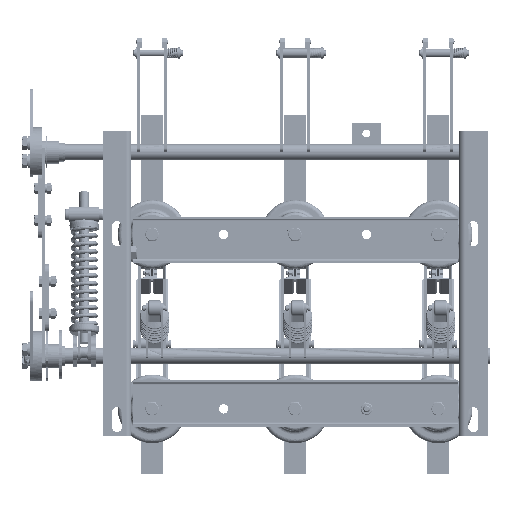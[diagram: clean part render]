
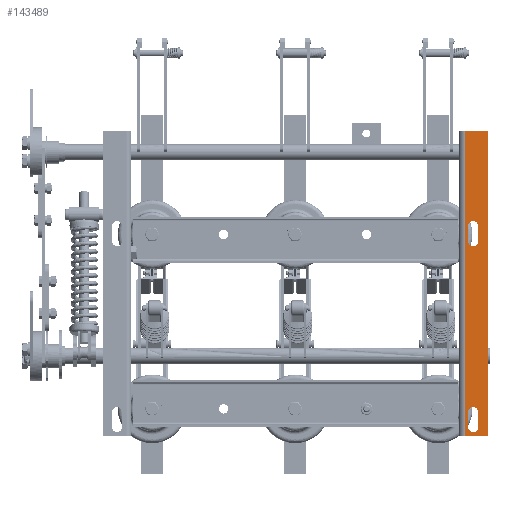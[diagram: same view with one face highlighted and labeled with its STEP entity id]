
A CAD part, front view. The second image highlights one B-rep face of the part: STEP entity #143489.
In plain terms, the highlighted planar face has unit normal (0, -1, 0).
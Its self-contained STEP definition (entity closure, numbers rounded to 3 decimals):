
#3783 = DIRECTION ( 'NONE',  ( 0., 0., 1. ) ) ;
#7098 = VECTOR ( 'NONE', #26087, 1000. ) ;
#8507 = ORIENTED_EDGE ( 'NONE', *, *, #96371, .F. ) ;
#9619 = EDGE_CURVE ( 'NONE', #147997, #77409, #24601, .T. ) ;
#11738 = VERTEX_POINT ( 'NONE', #27709 ) ;
#12618 = DIRECTION ( 'NONE',  ( 0., 0., -1. ) ) ;
#15363 = DIRECTION ( 'NONE',  ( 0., -1., 0. ) ) ;
#22906 = VECTOR ( 'NONE', #133639, 1000. ) ;
#24601 = LINE ( 'NONE', #120800, #99809 ) ;
#26087 = DIRECTION ( 'NONE',  ( 0., 0., 1. ) ) ;
#27327 = VERTEX_POINT ( 'NONE', #127918 ) ;
#27664 = VECTOR ( 'NONE', #3783, 1000. ) ;
#27709 = CARTESIAN_POINT ( 'NONE',  ( 241.999, 0.004, 140.5 ) ) ;
#28141 = VECTOR ( 'NONE', #120461, 1000. ) ;
#31517 = ORIENTED_EDGE ( 'NONE', *, *, #86489, .F. ) ;
#31820 = DIRECTION ( 'NONE',  ( 0., -1., 0. ) ) ;
#33035 = LINE ( 'NONE', #131118, #7098 ) ;
#33483 = CIRCLE ( 'NONE', #87177, 7. ) ;
#33746 = DIRECTION ( 'NONE',  ( -1., 0., 0. ) ) ;
#34702 = CIRCLE ( 'NONE', #185220, 7. ) ;
#34906 = ORIENTED_EDGE ( 'NONE', *, *, #189449, .F. ) ;
#35185 = VERTEX_POINT ( 'NONE', #36086 ) ;
#36086 = CARTESIAN_POINT ( 'NONE',  ( 241.999, 0.004, -119.5 ) ) ;
#36899 = VERTEX_POINT ( 'NONE', #146846 ) ;
#38087 = CARTESIAN_POINT ( 'NONE',  ( 241.999, 0.004, -20. ) ) ;
#38375 = VECTOR ( 'NONE', #12618, 1000. ) ;
#38706 = VECTOR ( 'NONE', #33746, 1000. ) ;
#39221 = VERTEX_POINT ( 'NONE', #116878 ) ;
#42046 = VERTEX_POINT ( 'NONE', #80227 ) ;
#43688 = CARTESIAN_POINT ( 'NONE',  ( 236.999, 0.004, 274. ) ) ;
#47787 = EDGE_CURVE ( 'NONE', #39221, #72723, #118626, .T. ) ;
#51059 = CARTESIAN_POINT ( 'NONE',  ( 255.999, 0.004, 140.5 ) ) ;
#51547 = DIRECTION ( 'NONE',  ( 0., -1., 0. ) ) ;
#59296 = VERTEX_POINT ( 'NONE', #139859 ) ;
#63665 = CARTESIAN_POINT ( 'NONE',  ( 269.202, 0.004, -225. ) ) ;
#67629 = ORIENTED_EDGE ( 'NONE', *, *, #78246, .T. ) ;
#67638 = LINE ( 'NONE', #63665, #27664 ) ;
#70731 = CARTESIAN_POINT ( 'NONE',  ( 255.999, 0.004, -140.5 ) ) ;
#72284 = CARTESIAN_POINT ( 'NONE',  ( 217.702, 0.004, -20. ) ) ;
#72723 = VERTEX_POINT ( 'NONE', #85199 ) ;
#72746 = EDGE_CURVE ( 'NONE', #72723, #36899, #33035, .T. ) ;
#74723 = CARTESIAN_POINT ( 'NONE',  ( 248.999, 0.004, -119.5 ) ) ;
#77409 = VERTEX_POINT ( 'NONE', #158009 ) ;
#78246 = EDGE_CURVE ( 'NONE', #39221, #27327, #67638, .T. ) ;
#80227 = CARTESIAN_POINT ( 'NONE',  ( 255.999, 0.004, 119.5 ) ) ;
#81639 = FACE_OUTER_BOUND ( 'NONE', #181614, .T. ) ;
#83651 = ORIENTED_EDGE ( 'NONE', *, *, #133798, .F. ) ;
#85199 = CARTESIAN_POINT ( 'NONE',  ( 236.999, 0.004, -153.1 ) ) ;
#86489 = EDGE_CURVE ( 'NONE', #35185, #119937, #193383, .T. ) ;
#86901 = LINE ( 'NONE', #38087, #126793 ) ;
#87177 = AXIS2_PLACEMENT_3D ( 'NONE', #141461, #51547, #156504 ) ;
#89102 = CARTESIAN_POINT ( 'NONE',  ( 248.999, 0.004, -140.5 ) ) ;
#89849 = DIRECTION ( 'NONE',  ( 1., 0., 0. ) ) ;
#90922 = EDGE_CURVE ( 'NONE', #59296, #42046, #33483, .T. ) ;
#96371 = EDGE_CURVE ( 'NONE', #157453, #11738, #34702, .T. ) ;
#99809 = VECTOR ( 'NONE', #149691, 1000. ) ;
#104243 = DIRECTION ( 'NONE',  ( 1., 0., 0. ) ) ;
#111786 = PLANE ( 'NONE',  #131387 ) ;
#113184 = EDGE_CURVE ( 'NONE', #77409, #35185, #163830, .T. ) ;
#115324 = AXIS2_PLACEMENT_3D ( 'NONE', #74723, #179721, #89849 ) ;
#116094 = EDGE_LOOP ( 'NONE', ( #148403, #31517, #156804, #180661 ) ) ;
#116878 = CARTESIAN_POINT ( 'NONE',  ( 269.202, 0.004, -153.1 ) ) ;
#117853 = CARTESIAN_POINT ( 'NONE',  ( 255.999, 0.004, -20. ) ) ;
#118626 = LINE ( 'NONE', #152559, #38706 ) ;
#119937 = VERTEX_POINT ( 'NONE', #123795 ) ;
#120461 = DIRECTION ( 'NONE',  ( 0., 0., 1. ) ) ;
#120477 = DIRECTION ( 'NONE',  ( 0., 0., -1. ) ) ;
#120800 = CARTESIAN_POINT ( 'NONE',  ( 255.999, 0.004, -20. ) ) ;
#121731 = CARTESIAN_POINT ( 'NONE',  ( 248.999, 0.004, 140.5 ) ) ;
#123795 = CARTESIAN_POINT ( 'NONE',  ( 241.999, 0.004, -140.5 ) ) ;
#126793 = VECTOR ( 'NONE', #128036, 1000. ) ;
#127918 = CARTESIAN_POINT ( 'NONE',  ( 269.202, 0.004, 274. ) ) ;
#128036 = DIRECTION ( 'NONE',  ( 0., 0., -1. ) ) ;
#131118 = CARTESIAN_POINT ( 'NONE',  ( 236.999, 0.004, -225. ) ) ;
#131387 = AXIS2_PLACEMENT_3D ( 'NONE', #72284, #15363, #120477 ) ;
#133639 = DIRECTION ( 'NONE',  ( 1., 0., 0. ) ) ;
#133798 = EDGE_CURVE ( 'NONE', #42046, #157453, #147927, .T. ) ;
#136875 = DIRECTION ( 'NONE',  ( 1., 0., 0. ) ) ;
#139859 = CARTESIAN_POINT ( 'NONE',  ( 241.999, 0.004, 119.5 ) ) ;
#140398 = FACE_BOUND ( 'NONE', #154250, .T. ) ;
#141461 = CARTESIAN_POINT ( 'NONE',  ( 248.999, 0.004, 119.5 ) ) ;
#143489 = ADVANCED_FACE ( 'NONE', ( #161454, #140398, #81639 ), #111786, .T. ) ;
#146846 = CARTESIAN_POINT ( 'NONE',  ( 236.999, 0.004, 274. ) ) ;
#147539 = ORIENTED_EDGE ( 'NONE', *, *, #90922, .F. ) ;
#147927 = LINE ( 'NONE', #117853, #28141 ) ;
#147997 = VERTEX_POINT ( 'NONE', #70731 ) ;
#148403 = ORIENTED_EDGE ( 'NONE', *, *, #149709, .F. ) ;
#149691 = DIRECTION ( 'NONE',  ( 0., 0., 1. ) ) ;
#149709 = EDGE_CURVE ( 'NONE', #119937, #147997, #190839, .T. ) ;
#151142 = CARTESIAN_POINT ( 'NONE',  ( 241.999, 0.004, -20. ) ) ;
#152559 = CARTESIAN_POINT ( 'NONE',  ( 104.6, 0.004, -153.1 ) ) ;
#153296 = AXIS2_PLACEMENT_3D ( 'NONE', #89102, #194048, #104243 ) ;
#154250 = EDGE_LOOP ( 'NONE', ( #147539, #158008, #8507, #83651 ) ) ;
#156504 = DIRECTION ( 'NONE',  ( 1., 0., 0. ) ) ;
#156804 = ORIENTED_EDGE ( 'NONE', *, *, #113184, .F. ) ;
#157453 = VERTEX_POINT ( 'NONE', #51059 ) ;
#158008 = ORIENTED_EDGE ( 'NONE', *, *, #192354, .F. ) ;
#158009 = CARTESIAN_POINT ( 'NONE',  ( 255.999, 0.004, -119.5 ) ) ;
#159252 = ORIENTED_EDGE ( 'NONE', *, *, #47787, .F. ) ;
#161454 = FACE_BOUND ( 'NONE', #116094, .T. ) ;
#163830 = CIRCLE ( 'NONE', #115324, 7. ) ;
#170318 = ORIENTED_EDGE ( 'NONE', *, *, #72746, .F. ) ;
#179721 = DIRECTION ( 'NONE',  ( 0., -1., 0. ) ) ;
#180661 = ORIENTED_EDGE ( 'NONE', *, *, #9619, .F. ) ;
#181614 = EDGE_LOOP ( 'NONE', ( #170318, #159252, #67629, #34906 ) ) ;
#182702 = LINE ( 'NONE', #43688, #22906 ) ;
#185220 = AXIS2_PLACEMENT_3D ( 'NONE', #121731, #31820, #136875 ) ;
#189449 = EDGE_CURVE ( 'NONE', #36899, #27327, #182702, .T. ) ;
#190839 = CIRCLE ( 'NONE', #153296, 7. ) ;
#192354 = EDGE_CURVE ( 'NONE', #11738, #59296, #86901, .T. ) ;
#193383 = LINE ( 'NONE', #151142, #38375 ) ;
#194048 = DIRECTION ( 'NONE',  ( 0., -1., 0. ) ) ;
